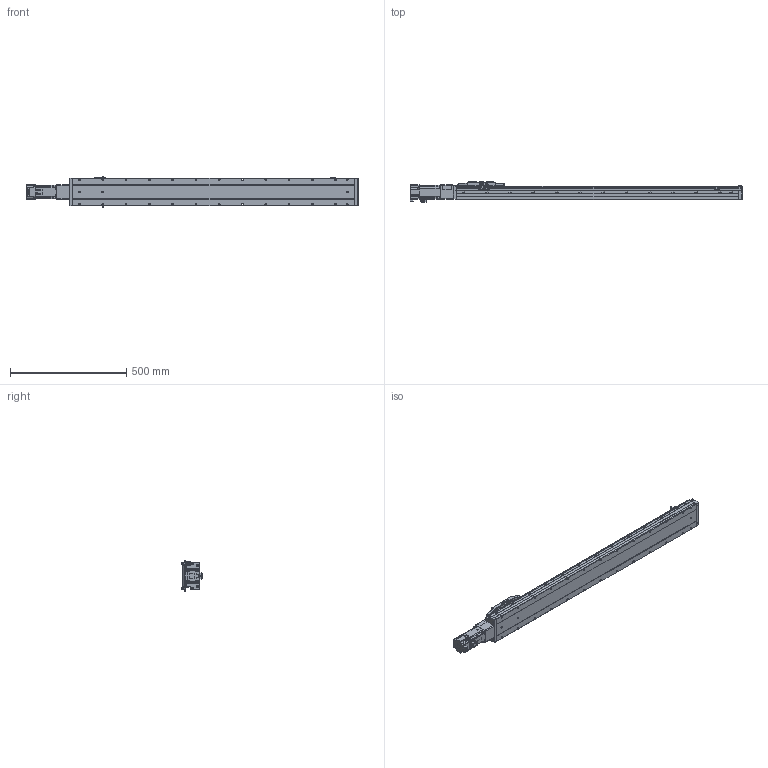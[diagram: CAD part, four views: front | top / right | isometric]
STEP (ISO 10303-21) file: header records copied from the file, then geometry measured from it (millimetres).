
FILE_DESCRIPTION (( 'STEP AP214' ), '1' );
FILE_NAME ('CTH12-L10-S1000-BC-C40（简）.STEP', '2023-02-06T05:21:22', ( '' ), ( '' ), 'SwSTEP 2.0', 'SolidWorks 2018', '' );
FILE_SCHEMA (( 'AUTOMOTIVE_DESIGN' ));
Length unit declared in the file: millimetre
Products named in the file (23): hex nuts, style 1-grades ab gb_GB_FASTENER_NUT_SNAB1 M3-N; CTH12-BC-06-T40（cth8-bc-06-t40-G）_1; CTH12-BC-03_1; CTH12-BL_body_4; CTH12賑怢郪磁; 400W萇儂; 内六角圆柱头螺钉M3-2; CTH12; 蚐郲; CTH12-L10-S1000-BC-C40（简）; 湮賑怢  裔赽-1(CTH12)賑怢; CTH12覜茼え; 嫖萇羲壽郪磁2; 内六角圆柱头螺钉M3-1; PM-Y45; CTH12萇儂釱; CTH12底座-L1211简（1000行程）; CTH12_body_3; M5蹟隊; CTH嫖萇羲壽假蚾啣; 内六角圆柱头螺钉M3; CTH12賑怢ㄗ潠ㄘ; 嫖萇羲壽郪磁1333
Assembly tree (43 placements, depth 4):
  CTH12-L10-S1000-BC-C40（简）
    CTH12底座-L1211简（1000行程）
    蚐郲  x2
    CTH12-BL_body_4
    CTH12_body_3
    CTH12賑怢郪磁
      CTH12
        湮賑怢  裔赽-1(CTH12)賑怢
        CTH12賑怢ㄗ潠ㄘ
    CTH12覜茼え
    嫖萇羲壽郪磁2
      CTH嫖萇羲壽假蚾啣
      PM-Y45
      内六角圆柱头螺钉M3-1  x2
      内六角圆柱头螺钉M3-2  x2
      hex nuts, style 1-grades ab gb_GB_FASTENER_NUT_SNAB1 M3-N  x2
    CTH12萇儂釱
      CTH12-BC-03_1
      CTH12-BC-06-T40（cth8-bc-06-t40-G）_1
    嫖萇羲壽郪磁1333  x2
      CTH嫖萇羲壽假蚾啣
      PM-Y45
      内六角圆柱头螺钉M3-2
      内六角圆柱头螺钉M3-1
      hex nuts, style 1-grades ab gb_GB_FASTENER_NUT_SNAB1 M3-N
    内六角圆柱头螺钉M3  x6
    400W萇儂
    M5蹟隊  x4
Bounding box: 1425.8 x 86.5 x 131.52 mm (x, y, z)
Volume: 8339434.9 mm3; surface area: 749744.3 mm2
Topology: 45 solids, 47 shells, 3071 faces, 7633 edges, 4787 vertices
Faces by surface type: plane 1504, cylinder 914, cone 383, bspline 142, torus 124, sphere 4
Entity records: 96088 total; most frequent: CARTESIAN_POINT 32726, ORIENTED_EDGE 12368, DIRECTION 12079, EDGE_CURVE 6184, AXIS2_PLACEMENT_3D 4245, VERTEX_POINT 3891, LINE 3589, VECTOR 3589
